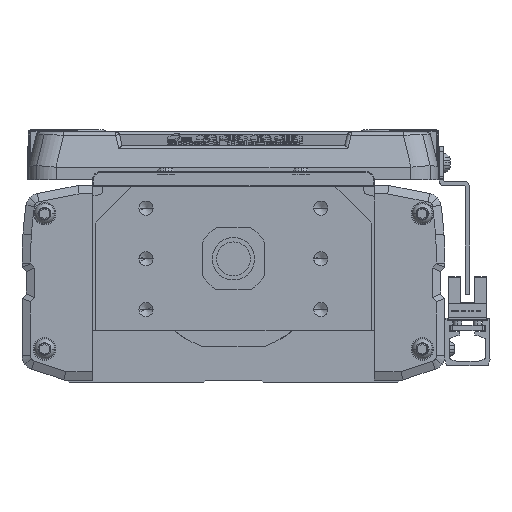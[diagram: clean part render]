
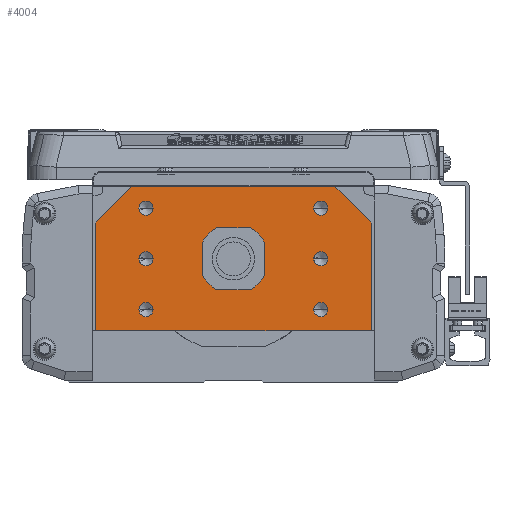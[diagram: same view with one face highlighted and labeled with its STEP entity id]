
A CAD part, left-side view. The second image highlights one B-rep face of the part: STEP entity #4004.
In plain terms, the highlighted planar face has unit normal (-1, 0, 0).
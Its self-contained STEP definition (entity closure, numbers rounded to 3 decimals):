
#4004=ADVANCED_FACE('',(#9775,#9776,#9777,#9778,#9779,#9780,#9781,#9782),#9783,.F.);
#9775=FACE_OUTER_BOUND('',#18329,.T.);
#9776=FACE_BOUND('',#18330,.T.);
#9777=FACE_BOUND('',#18331,.T.);
#9778=FACE_BOUND('',#18332,.T.);
#9779=FACE_BOUND('',#18333,.T.);
#9780=FACE_BOUND('',#18334,.T.);
#9781=FACE_BOUND('',#18335,.T.);
#9782=FACE_BOUND('',#18336,.T.);
#9783=PLANE('',#18337);
#18329=EDGE_LOOP('',(#30005,#30006,#30007,#30008,#30009,#30010,#30011,#30012));
#18330=EDGE_LOOP('',(#30013,#30014));
#18331=EDGE_LOOP('',(#30015,#30016));
#18332=EDGE_LOOP('',(#30017,#30018));
#18333=EDGE_LOOP('',(#30019,#30020));
#18334=EDGE_LOOP('',(#30021,#30022));
#18335=EDGE_LOOP('',(#30023,#30024));
#18336=EDGE_LOOP('',(#30025,#30026));
#18337=AXIS2_PLACEMENT_3D('',#30027,#30028,#30029);
#30005=ORIENTED_EDGE('',*,*,#50917,.F.);
#30006=ORIENTED_EDGE('',*,*,#49320,.F.);
#30007=ORIENTED_EDGE('',*,*,#50918,.F.);
#30008=ORIENTED_EDGE('',*,*,#50919,.F.);
#30009=ORIENTED_EDGE('',*,*,#50920,.F.);
#30010=ORIENTED_EDGE('',*,*,#50921,.F.);
#30011=ORIENTED_EDGE('',*,*,#50922,.F.);
#30012=ORIENTED_EDGE('',*,*,#50923,.F.);
#30013=ORIENTED_EDGE('',*,*,#50924,.T.);
#30014=ORIENTED_EDGE('',*,*,#50925,.T.);
#30015=ORIENTED_EDGE('',*,*,#50926,.T.);
#30016=ORIENTED_EDGE('',*,*,#50927,.T.);
#30017=ORIENTED_EDGE('',*,*,#50928,.T.);
#30018=ORIENTED_EDGE('',*,*,#50929,.T.);
#30019=ORIENTED_EDGE('',*,*,#50930,.T.);
#30020=ORIENTED_EDGE('',*,*,#50931,.T.);
#30021=ORIENTED_EDGE('',*,*,#50932,.T.);
#30022=ORIENTED_EDGE('',*,*,#50933,.T.);
#30023=ORIENTED_EDGE('',*,*,#50934,.T.);
#30024=ORIENTED_EDGE('',*,*,#50935,.T.);
#30025=ORIENTED_EDGE('',*,*,#50936,.F.);
#30026=ORIENTED_EDGE('',*,*,#50937,.F.);
#30027=CARTESIAN_POINT('',(0.,0.275,-2.548));
#30028=DIRECTION('',(1.0,0.,0.));
#30029=DIRECTION('',(0.,1.0,0.));
#49320=EDGE_CURVE('',#59121,#59117,#59123,.T.);
#50917=EDGE_CURVE('',#59117,#61810,#61811,.T.);
#50918=EDGE_CURVE('',#61812,#59121,#61813,.T.);
#50919=EDGE_CURVE('',#61814,#61812,#61815,.T.);
#50920=EDGE_CURVE('',#61816,#61814,#61817,.T.);
#50921=EDGE_CURVE('',#61818,#61816,#61819,.T.);
#50922=EDGE_CURVE('',#61820,#61818,#61821,.T.);
#50923=EDGE_CURVE('',#61810,#61820,#61822,.T.);
#50924=EDGE_CURVE('',#61823,#61824,#61825,.T.);
#50925=EDGE_CURVE('',#61824,#61823,#61826,.T.);
#50926=EDGE_CURVE('',#61827,#61828,#61829,.T.);
#50927=EDGE_CURVE('',#61828,#61827,#61830,.T.);
#50928=EDGE_CURVE('',#61831,#61832,#61833,.T.);
#50929=EDGE_CURVE('',#61832,#61831,#61834,.T.);
#50930=EDGE_CURVE('',#61835,#61836,#61837,.T.);
#50931=EDGE_CURVE('',#61836,#61835,#61838,.T.);
#50932=EDGE_CURVE('',#61839,#61840,#61841,.T.);
#50933=EDGE_CURVE('',#61840,#61839,#61842,.T.);
#50934=EDGE_CURVE('',#61843,#61844,#61845,.T.);
#50935=EDGE_CURVE('',#61844,#61843,#61846,.T.);
#50936=EDGE_CURVE('',#61847,#61848,#61849,.F.);
#50937=EDGE_CURVE('',#61848,#61847,#61850,.F.);
#59117=VERTEX_POINT('',#72856);
#59121=VERTEX_POINT('',#72862);
#59123=LINE('',#72865,#72866);
#61810=VERTEX_POINT('',#76590);
#61811=LINE('',#76591,#76592);
#61812=VERTEX_POINT('',#76593);
#61813=LINE('',#76594,#76595);
#61814=VERTEX_POINT('',#76596);
#61815=LINE('',#76597,#76598);
#61816=VERTEX_POINT('',#76599);
#61817=LINE('',#76600,#76601);
#61818=VERTEX_POINT('',#76602);
#61819=LINE('',#76603,#76604);
#61820=VERTEX_POINT('',#76605);
#61821=LINE('',#76606,#76607);
#61822=LINE('',#76608,#76609);
#61823=VERTEX_POINT('',#76610);
#61824=VERTEX_POINT('',#76611);
#61825=CIRCLE('',#76612,2.5);
#61826=CIRCLE('',#76613,2.5);
#61827=VERTEX_POINT('',#76614);
#61828=VERTEX_POINT('',#76615);
#61829=CIRCLE('',#76616,2.5);
#61830=CIRCLE('',#76617,2.5);
#61831=VERTEX_POINT('',#76618);
#61832=VERTEX_POINT('',#76619);
#61833=CIRCLE('',#76620,2.5);
#61834=CIRCLE('',#76621,2.5);
#61835=VERTEX_POINT('',#76622);
#61836=VERTEX_POINT('',#76623);
#61837=CIRCLE('',#76624,2.5);
#61838=CIRCLE('',#76625,2.5);
#61839=VERTEX_POINT('',#76626);
#61840=VERTEX_POINT('',#76627);
#61841=CIRCLE('',#76628,2.5);
#61842=CIRCLE('',#76629,2.5);
#61843=VERTEX_POINT('',#76630);
#61844=VERTEX_POINT('',#76631);
#61845=CIRCLE('',#76632,2.5);
#61846=CIRCLE('',#76633,2.5);
#61847=VERTEX_POINT('',#76634);
#61848=VERTEX_POINT('',#76635);
#61849=CIRCLE('',#76636,7.5);
#61850=CIRCLE('',#76637,7.5);
#72856=CARTESIAN_POINT('',(0.,49.,12.7));
#72862=CARTESIAN_POINT('',(0.,49.,-25.));
#72865=CARTESIAN_POINT('',(0.,49.,-25.));
#72866=VECTOR('',#90064,10.0);
#76590=CARTESIAN_POINT('',(0.,36.,25.7));
#76591=CARTESIAN_POINT('',(0.,37.381,24.319));
#76592=VECTOR('',#92227,10.);
#76593=CARTESIAN_POINT('',(0.,48.5,-25.5));
#76594=CARTESIAN_POINT('',(0.,48.5,-25.5));
#76595=VECTOR('',#92228,10.0);
#76596=CARTESIAN_POINT('',(0.,-48.5,-25.5));
#76597=CARTESIAN_POINT('',(0.,0.,-25.5));
#76598=VECTOR('',#92229,10.0);
#76599=CARTESIAN_POINT('',(0.,-49.,-25.));
#76600=CARTESIAN_POINT('',(0.,-49.,-25.));
#76601=VECTOR('',#92230,10.0);
#76602=CARTESIAN_POINT('',(0.,-49.,12.7));
#76603=CARTESIAN_POINT('',(0.,-49.,-14.));
#76604=VECTOR('',#92231,10.0);
#76605=CARTESIAN_POINT('',(0.,-36.,25.7));
#76606=CARTESIAN_POINT('',(0.,-37.243,24.457));
#76607=VECTOR('',#92232,10.0);
#76608=CARTESIAN_POINT('',(0.,34.5,25.7));
#76609=VECTOR('',#92233,10.0);
#76610=CARTESIAN_POINT('',(0.,33.5,-18.));
#76611=CARTESIAN_POINT('',(0.,28.5,-18.));
#76612=AXIS2_PLACEMENT_3D('',#92234,#92235,#92236);
#76613=AXIS2_PLACEMENT_3D('',#92237,#92238,#92239);
#76614=CARTESIAN_POINT('',(0.,-33.5,-18.));
#76615=CARTESIAN_POINT('',(0.,-28.5,-18.));
#76616=AXIS2_PLACEMENT_3D('',#92240,#92241,#92242);
#76617=AXIS2_PLACEMENT_3D('',#92243,#92244,#92245);
#76618=CARTESIAN_POINT('',(0.,33.5,18.));
#76619=CARTESIAN_POINT('',(0.,28.5,18.));
#76620=AXIS2_PLACEMENT_3D('',#92246,#92247,#92248);
#76621=AXIS2_PLACEMENT_3D('',#92249,#92250,#92251);
#76622=CARTESIAN_POINT('',(0.,-33.5,18.));
#76623=CARTESIAN_POINT('',(0.,-28.5,18.));
#76624=AXIS2_PLACEMENT_3D('',#92252,#92253,#92254);
#76625=AXIS2_PLACEMENT_3D('',#92255,#92256,#92257);
#76626=CARTESIAN_POINT('',(0.,33.5,0.));
#76627=CARTESIAN_POINT('',(0.,28.5,0.));
#76628=AXIS2_PLACEMENT_3D('',#92258,#92259,#92260);
#76629=AXIS2_PLACEMENT_3D('',#92261,#92262,#92263);
#76630=CARTESIAN_POINT('',(0.,-33.5,0.));
#76631=CARTESIAN_POINT('',(0.,-28.5,0.));
#76632=AXIS2_PLACEMENT_3D('',#92264,#92265,#92266);
#76633=AXIS2_PLACEMENT_3D('',#92267,#92268,#92269);
#76634=CARTESIAN_POINT('',(0.,7.5,0.));
#76635=CARTESIAN_POINT('',(0.,-7.5,0.));
#76636=AXIS2_PLACEMENT_3D('',#92270,#92271,#92272);
#76637=AXIS2_PLACEMENT_3D('',#92273,#92274,#92275);
#90064=DIRECTION('',(0.,0.,1.0));
#92227=DIRECTION('',(0.,-0.707,0.707));
#92228=DIRECTION('',(0.,0.707,0.707));
#92229=DIRECTION('',(0.,1.0,0.));
#92230=DIRECTION('',(0.,0.707,-0.707));
#92231=DIRECTION('',(0.,0.,-1.0));
#92232=DIRECTION('',(0.,-0.707,-0.707));
#92233=DIRECTION('',(0.,-1.0,0.));
#92234=CARTESIAN_POINT('',(0.,31.,-18.));
#92235=DIRECTION('',(1.0,0.,0.));
#92236=DIRECTION('',(0.,1.0,0.));
#92237=CARTESIAN_POINT('',(0.,31.,-18.));
#92238=DIRECTION('',(1.0,0.,0.));
#92239=DIRECTION('',(0.,1.0,0.));
#92240=CARTESIAN_POINT('',(0.,-31.,-18.));
#92241=DIRECTION('',(1.0,0.,0.));
#92242=DIRECTION('',(0.,-1.0,0.));
#92243=CARTESIAN_POINT('',(0.,-31.,-18.));
#92244=DIRECTION('',(1.0,0.,0.));
#92245=DIRECTION('',(0.,-1.0,0.));
#92246=CARTESIAN_POINT('',(0.,31.,18.));
#92247=DIRECTION('',(1.0,0.,0.));
#92248=DIRECTION('',(0.,1.0,0.));
#92249=CARTESIAN_POINT('',(0.,31.,18.));
#92250=DIRECTION('',(1.0,0.,0.));
#92251=DIRECTION('',(0.,1.0,0.));
#92252=CARTESIAN_POINT('',(0.,-31.,18.));
#92253=DIRECTION('',(1.0,0.,0.));
#92254=DIRECTION('',(0.,-1.0,0.));
#92255=CARTESIAN_POINT('',(0.,-31.,18.));
#92256=DIRECTION('',(1.0,0.,0.));
#92257=DIRECTION('',(0.,-1.0,0.));
#92258=CARTESIAN_POINT('',(0.,31.,0.));
#92259=DIRECTION('',(1.0,0.,0.));
#92260=DIRECTION('',(0.,1.0,0.));
#92261=CARTESIAN_POINT('',(0.,31.,0.));
#92262=DIRECTION('',(1.0,0.,0.));
#92263=DIRECTION('',(0.,1.0,0.));
#92264=CARTESIAN_POINT('',(0.,-31.,0.));
#92265=DIRECTION('',(1.0,0.,0.));
#92266=DIRECTION('',(0.,-1.0,0.));
#92267=CARTESIAN_POINT('',(0.,-31.,0.));
#92268=DIRECTION('',(1.0,0.,0.));
#92269=DIRECTION('',(0.,-1.0,0.));
#92270=CARTESIAN_POINT('',(0.,0.,0.));
#92271=DIRECTION('',(1.0,0.,0.));
#92272=DIRECTION('',(0.,-1.0,0.));
#92273=CARTESIAN_POINT('',(0.,0.,0.));
#92274=DIRECTION('',(1.0,0.,0.));
#92275=DIRECTION('',(0.,-1.0,0.));
